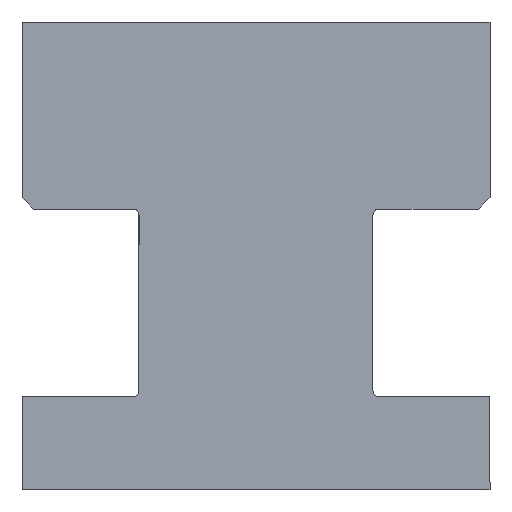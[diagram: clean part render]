
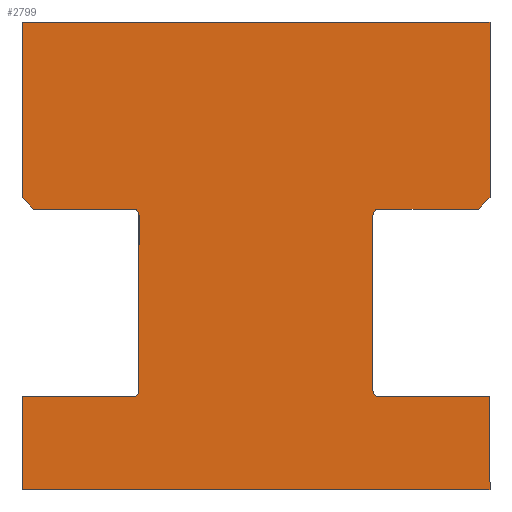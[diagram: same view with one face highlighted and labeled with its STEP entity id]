
A CAD part, front view. The second image highlights one B-rep face of the part: STEP entity #2799.
In plain terms, the highlighted planar face has unit normal (0, -1, 0).
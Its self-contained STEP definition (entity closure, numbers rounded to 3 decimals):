
#14 = VECTOR ( 'NONE', #3174, 1000. ) ;
#37 = VERTEX_POINT ( 'NONE', #1464 ) ;
#56 = LINE ( 'NONE', #6897, #7502 ) ;
#115 = DIRECTION ( 'NONE',  ( 1., 0., 0. ) ) ;
#235 = DIRECTION ( 'NONE',  ( 0., 0., -1. ) ) ;
#343 = EDGE_CURVE ( 'NONE', #4417, #2480, #1193, .T. ) ;
#362 = VERTEX_POINT ( 'NONE', #8144 ) ;
#428 = VECTOR ( 'NONE', #431, 1000. ) ;
#431 = DIRECTION ( 'NONE',  ( 0., 0., -1. ) ) ;
#545 = LINE ( 'NONE', #4326, #7375 ) ;
#646 = CARTESIAN_POINT ( 'NONE',  ( 10., -80., 20. ) ) ;
#694 = ORIENTED_EDGE ( 'NONE', *, *, #7538, .T. ) ;
#744 = LINE ( 'NONE', #3297, #14 ) ;
#791 = DIRECTION ( 'NONE',  ( 0., 1., 0. ) ) ;
#834 = DIRECTION ( 'NONE',  ( 0., 0., -1. ) ) ;
#885 = DIRECTION ( 'NONE',  ( 1., 0., 0. ) ) ;
#902 = VERTEX_POINT ( 'NONE', #7266 ) ;
#949 = CARTESIAN_POINT ( 'NONE',  ( -5.25, -80., 11.75 ) ) ;
#956 = LINE ( 'NONE', #2096, #2506 ) ;
#1061 = VERTEX_POINT ( 'NONE', #5782 ) ;
#1151 = DIRECTION ( 'NONE',  ( 0., 1., 0. ) ) ;
#1193 = CIRCLE ( 'NONE', #5005, 0.25 ) ;
#1266 = EDGE_CURVE ( 'NONE', #3983, #4417, #1684, .T. ) ;
#1464 = CARTESIAN_POINT ( 'NONE',  ( -5., -80., 4.25 ) ) ;
#1591 = CARTESIAN_POINT ( 'NONE',  ( -5., -80., 11.75 ) ) ;
#1684 = LINE ( 'NONE', #2423, #3164 ) ;
#1706 = CARTESIAN_POINT ( 'NONE',  ( 5., -80., 4.25 ) ) ;
#1801 = ORIENTED_EDGE ( 'NONE', *, *, #6539, .T. ) ;
#1856 = DIRECTION ( 'NONE',  ( 0., 0., 1. ) ) ;
#1938 = CARTESIAN_POINT ( 'NONE',  ( 10., -80., 20. ) ) ;
#1945 = EDGE_CURVE ( 'NONE', #7070, #4882, #956, .T. ) ;
#2043 = EDGE_CURVE ( 'NONE', #5999, #1061, #7904, .T. ) ;
#2068 = CARTESIAN_POINT ( 'NONE',  ( -10., -80., 12. ) ) ;
#2096 = CARTESIAN_POINT ( 'NONE',  ( -10., -80., 20. ) ) ;
#2105 = FACE_OUTER_BOUND ( 'NONE', #3023, .T. ) ;
#2353 = CARTESIAN_POINT ( 'NONE',  ( -5.25, -80., 4.25 ) ) ;
#2391 = CIRCLE ( 'NONE', #4229, 0.25 ) ;
#2423 = CARTESIAN_POINT ( 'NONE',  ( 10., -80., 4. ) ) ;
#2477 = DIRECTION ( 'NONE',  ( 0., 0., -1. ) ) ;
#2480 = VERTEX_POINT ( 'NONE', #1706 ) ;
#2506 = VECTOR ( 'NONE', #235, 1000. ) ;
#2646 = EDGE_CURVE ( 'NONE', #4346, #6456, #545, .T. ) ;
#2660 = CIRCLE ( 'NONE', #7256, 0.25 ) ;
#2765 = ORIENTED_EDGE ( 'NONE', *, *, #7891, .F. ) ;
#2799 = ADVANCED_FACE ( 'NONE', ( #2105 ), #4533, .F. ) ;
#2805 = EDGE_CURVE ( 'NONE', #4346, #4499, #7792, .T. ) ;
#2849 = LINE ( 'NONE', #2068, #4897 ) ;
#3023 = EDGE_LOOP ( 'NONE', ( #5207, #694, #2765, #4657, #4980, #3562, #6410, #5886, #1801, #3175, #4393, #3339, #4033, #5931, #7607, #7079, #4430, #5651 ) ) ;
#3036 = VECTOR ( 'NONE', #6264, 1000. ) ;
#3100 = CARTESIAN_POINT ( 'NONE',  ( 10., -80., 12.5 ) ) ;
#3164 = VECTOR ( 'NONE', #4307, 1000. ) ;
#3174 = DIRECTION ( 'NONE',  ( -1., 0., 0. ) ) ;
#3175 = ORIENTED_EDGE ( 'NONE', *, *, #4682, .T. ) ;
#3235 = LINE ( 'NONE', #4593, #7501 ) ;
#3297 = CARTESIAN_POINT ( 'NONE',  ( -10., -80., 4. ) ) ;
#3339 = ORIENTED_EDGE ( 'NONE', *, *, #1945, .T. ) ;
#3369 = CARTESIAN_POINT ( 'NONE',  ( -10., -80., 20. ) ) ;
#3512 = CARTESIAN_POINT ( 'NONE',  ( 10., -80., 0. ) ) ;
#3562 = ORIENTED_EDGE ( 'NONE', *, *, #7333, .T. ) ;
#3649 = EDGE_CURVE ( 'NONE', #2480, #5999, #56, .T. ) ;
#3652 = CARTESIAN_POINT ( 'NONE',  ( 10., -80., 20. ) ) ;
#3668 = CARTESIAN_POINT ( 'NONE',  ( 10., -80., 12. ) ) ;
#3676 = VERTEX_POINT ( 'NONE', #1591 ) ;
#3693 = AXIS2_PLACEMENT_3D ( 'NONE', #7128, #791, #6420 ) ;
#3712 = LINE ( 'NONE', #3100, #3036 ) ;
#3777 = VERTEX_POINT ( 'NONE', #4803 ) ;
#3983 = VERTEX_POINT ( 'NONE', #6477 ) ;
#4033 = ORIENTED_EDGE ( 'NONE', *, *, #7701, .T. ) ;
#4197 = DIRECTION ( 'NONE',  ( 0., 0., 1. ) ) ;
#4224 = DIRECTION ( 'NONE',  ( 0., 0., -1. ) ) ;
#4229 = AXIS2_PLACEMENT_3D ( 'NONE', #2353, #6019, #4197 ) ;
#4233 = DIRECTION ( 'NONE',  ( 0., 0., -1. ) ) ;
#4307 = DIRECTION ( 'NONE',  ( -1., 0., 0. ) ) ;
#4326 = CARTESIAN_POINT ( 'NONE',  ( -10., -80., 20. ) ) ;
#4327 = DIRECTION ( 'NONE',  ( 1., 0., 0. ) ) ;
#4337 = CARTESIAN_POINT ( 'NONE',  ( 5., -80., 11.75 ) ) ;
#4346 = VERTEX_POINT ( 'NONE', #3369 ) ;
#4348 = DIRECTION ( 'NONE',  ( 0., 0., -1. ) ) ;
#4393 = ORIENTED_EDGE ( 'NONE', *, *, #7813, .T. ) ;
#4417 = VERTEX_POINT ( 'NONE', #6129 ) ;
#4430 = ORIENTED_EDGE ( 'NONE', *, *, #3649, .T. ) ;
#4499 = VERTEX_POINT ( 'NONE', #646 ) ;
#4532 = CARTESIAN_POINT ( 'NONE',  ( -10., -80., 12.5 ) ) ;
#4533 = PLANE ( 'NONE',  #3693 ) ;
#4593 = CARTESIAN_POINT ( 'NONE',  ( -9.5, -80., 12. ) ) ;
#4619 = EDGE_CURVE ( 'NONE', #362, #5740, #2849, .T. ) ;
#4622 = VECTOR ( 'NONE', #115, 1000. ) ;
#4634 = VECTOR ( 'NONE', #4327, 1000. ) ;
#4636 = DIRECTION ( 'NONE',  ( 0.707, 0., -0.707 ) ) ;
#4657 = ORIENTED_EDGE ( 'NONE', *, *, #2805, .F. ) ;
#4682 = EDGE_CURVE ( 'NONE', #37, #6656, #2391, .T. ) ;
#4803 = CARTESIAN_POINT ( 'NONE',  ( 9.5, -80., 12. ) ) ;
#4864 = EDGE_CURVE ( 'NONE', #5740, #3676, #2660, .T. ) ;
#4882 = VERTEX_POINT ( 'NONE', #6006 ) ;
#4897 = VECTOR ( 'NONE', #885, 1000. ) ;
#4980 = ORIENTED_EDGE ( 'NONE', *, *, #2646, .T. ) ;
#4986 = CARTESIAN_POINT ( 'NONE',  ( 5.25, -80., 4.25 ) ) ;
#5005 = AXIS2_PLACEMENT_3D ( 'NONE', #4986, #7485, #1856 ) ;
#5035 = CARTESIAN_POINT ( 'NONE',  ( -10., -80., 0. ) ) ;
#5174 = VECTOR ( 'NONE', #4233, 1000. ) ;
#5207 = ORIENTED_EDGE ( 'NONE', *, *, #5771, .T. ) ;
#5298 = VECTOR ( 'NONE', #834, 1000. ) ;
#5311 = EDGE_CURVE ( 'NONE', #3983, #6132, #6777, .T. ) ;
#5457 = CARTESIAN_POINT ( 'NONE',  ( -10., -80., 4. ) ) ;
#5555 = VECTOR ( 'NONE', #6909, 1000. ) ;
#5646 = LINE ( 'NONE', #5035, #5555 ) ;
#5651 = ORIENTED_EDGE ( 'NONE', *, *, #2043, .T. ) ;
#5664 = AXIS2_PLACEMENT_3D ( 'NONE', #8015, #1151, #4348 ) ;
#5740 = VERTEX_POINT ( 'NONE', #8111 ) ;
#5771 = EDGE_CURVE ( 'NONE', #1061, #3777, #7417, .T. ) ;
#5782 = CARTESIAN_POINT ( 'NONE',  ( 5.25, -80., 12. ) ) ;
#5858 = LINE ( 'NONE', #1938, #5298 ) ;
#5886 = ORIENTED_EDGE ( 'NONE', *, *, #4864, .T. ) ;
#5931 = ORIENTED_EDGE ( 'NONE', *, *, #5311, .F. ) ;
#5932 = CARTESIAN_POINT ( 'NONE',  ( -10., -80., 20. ) ) ;
#5999 = VERTEX_POINT ( 'NONE', #4337 ) ;
#6006 = CARTESIAN_POINT ( 'NONE',  ( -10., -80., 0. ) ) ;
#6019 = DIRECTION ( 'NONE',  ( 0., 1., 0. ) ) ;
#6129 = CARTESIAN_POINT ( 'NONE',  ( 5.25, -80., 4. ) ) ;
#6132 = VERTEX_POINT ( 'NONE', #3512 ) ;
#6264 = DIRECTION ( 'NONE',  ( 0.707, 0., 0.707 ) ) ;
#6410 = ORIENTED_EDGE ( 'NONE', *, *, #4619, .T. ) ;
#6420 = DIRECTION ( 'NONE',  ( 0., 0., 1. ) ) ;
#6456 = VERTEX_POINT ( 'NONE', #4532 ) ;
#6477 = CARTESIAN_POINT ( 'NONE',  ( 10., -80., 4. ) ) ;
#6539 = EDGE_CURVE ( 'NONE', #3676, #37, #6644, .T. ) ;
#6566 = CARTESIAN_POINT ( 'NONE',  ( -5., -80., 4.25 ) ) ;
#6644 = LINE ( 'NONE', #6566, #428 ) ;
#6656 = VERTEX_POINT ( 'NONE', #8009 ) ;
#6777 = LINE ( 'NONE', #3652, #5174 ) ;
#6897 = CARTESIAN_POINT ( 'NONE',  ( 5., -80., 4.25 ) ) ;
#6909 = DIRECTION ( 'NONE',  ( 1., 0., 0. ) ) ;
#7070 = VERTEX_POINT ( 'NONE', #5457 ) ;
#7079 = ORIENTED_EDGE ( 'NONE', *, *, #343, .T. ) ;
#7128 = CARTESIAN_POINT ( 'NONE',  ( -10., -80., 20. ) ) ;
#7256 = AXIS2_PLACEMENT_3D ( 'NONE', #949, #7937, #4224 ) ;
#7266 = CARTESIAN_POINT ( 'NONE',  ( 10., -80., 12.5 ) ) ;
#7333 = EDGE_CURVE ( 'NONE', #6456, #362, #3235, .T. ) ;
#7375 = VECTOR ( 'NONE', #2477, 1000. ) ;
#7417 = LINE ( 'NONE', #3668, #4634 ) ;
#7485 = DIRECTION ( 'NONE',  ( 0., 1., 0. ) ) ;
#7501 = VECTOR ( 'NONE', #4636, 1000. ) ;
#7502 = VECTOR ( 'NONE', #7639, 1000. ) ;
#7538 = EDGE_CURVE ( 'NONE', #3777, #902, #3712, .T. ) ;
#7607 = ORIENTED_EDGE ( 'NONE', *, *, #1266, .T. ) ;
#7639 = DIRECTION ( 'NONE',  ( 0., 0., 1. ) ) ;
#7701 = EDGE_CURVE ( 'NONE', #4882, #6132, #5646, .T. ) ;
#7792 = LINE ( 'NONE', #5932, #4622 ) ;
#7813 = EDGE_CURVE ( 'NONE', #6656, #7070, #744, .T. ) ;
#7891 = EDGE_CURVE ( 'NONE', #4499, #902, #5858, .T. ) ;
#7904 = CIRCLE ( 'NONE', #5664, 0.25 ) ;
#7937 = DIRECTION ( 'NONE',  ( 0., 1., 0. ) ) ;
#8009 = CARTESIAN_POINT ( 'NONE',  ( -5.25, -80., 4. ) ) ;
#8015 = CARTESIAN_POINT ( 'NONE',  ( 5.25, -80., 11.75 ) ) ;
#8111 = CARTESIAN_POINT ( 'NONE',  ( -5.25, -80., 12. ) ) ;
#8144 = CARTESIAN_POINT ( 'NONE',  ( -9.5, -80., 12. ) ) ;
